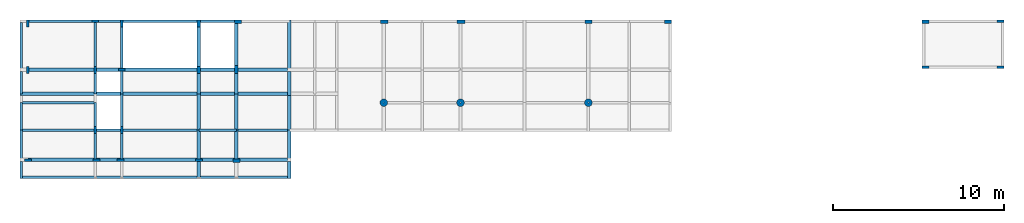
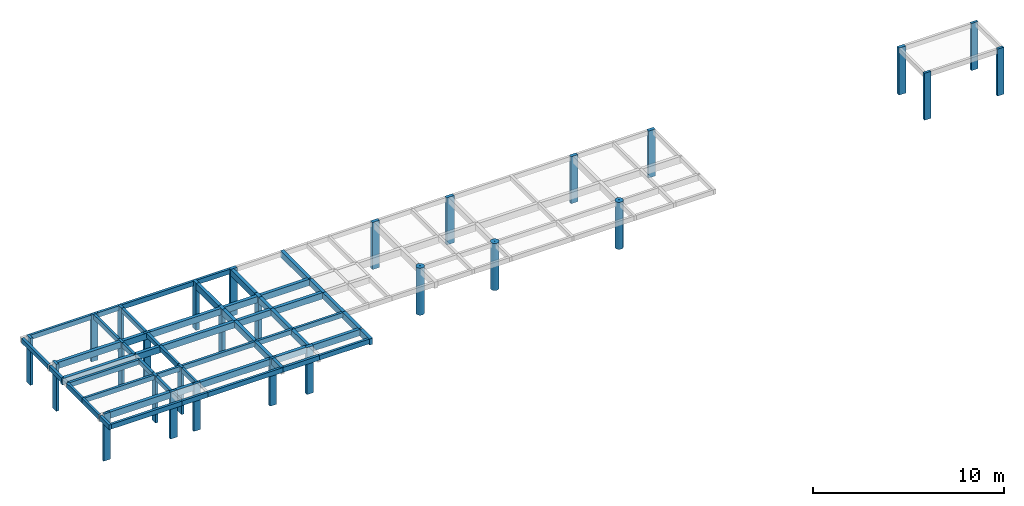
# One storey, part 1 of 4: 57 beams, 28 columns.
"""IFC2X3 building model written with IfcOpenShell, lengths in centimetres."""

from ifc_helpers import new_model, si_unit, derived_unit, frame, origin, origin_with_axes, origin_2d_with_axis, place, context, project, spatial, rectangle, hollow_circle, extrude, material, element, save


model = new_model("IFC2X3")

# Units and contexts
model_context = context("Model", 3, precision=1e-05, world=origin_with_axes(), identifier="Body")
ifc_project = project(units=[si_unit("LENGTHUNIT", "METRE", prefix="CENTI"), si_unit("VOLUMEUNIT", "CUBIC_METRE"), si_unit("AREAUNIT", "SQUARE_METRE"), si_unit("POWERUNIT", "WATT"), si_unit("LUMINOUSFLUXUNIT", "LUMEN"), si_unit("ELECTRICCURRENTUNIT", "AMPERE"), si_unit("PRESSUREUNIT", "PASCAL", prefix="KILO"), si_unit("MASSUNIT", "GRAM", prefix="KILO"), si_unit("PLANEANGLEUNIT", "RADIAN"), derived_unit("VOLUMETRICFLOWRATEUNIT", [(si_unit("LENGTHUNIT", "METRE"), 3), (si_unit("TIMEUNIT", "SECOND"), -1)])], contexts=[model_context])

# Site, building, storey
site_placement = place(None, origin_with_axes())
site = spatial("IfcSite", under=ifc_project, at=site_placement)
building_placement = place(site_placement, origin())
building = spatial("IfcBuilding", under=site, at=building_placement)
placement_1 = place(building_placement, origin_with_axes())
placement_2 = place(placement_1, frame((0.0, 0.0, 80.0), z_axis=(0.0, 0.0, 1.0), x_axis=(1.0, 0.0, 0.0)))
placement_3 = place(placement_2, frame((0.0, 0.0, 320.0), z_axis=(0.0, 0.0, 1.0), x_axis=(1.0, 0.0, 0.0)))
placement_4 = place(placement_3, frame((0.0, 0.0, 320.0), z_axis=(0.0, 0.0, 1.0), x_axis=(1.0, 0.0, 0.0)))
storey_placement = place(placement_4, frame((0.0, 0.0, 300.0), z_axis=(0.0, 0.0, 1.0), x_axis=(1.0, 0.0, 0.0)))
storey = spatial("IfcBuildingStorey", under=building, at=storey_placement, Name="05. Pavimento Técnico", CompositionType="ELEMENT", Elevation=1020.0)

# Columns
ifc_material = material(Name="Concreto")
for number, where, z_axis, x_axis, name in (
    (1, (1838.54, -284.11, 0.0), (0.0, 0.0, 1.0), (1.0, 0.0, 0.0), "P10"),
    (2, (2305.54, -284.11, 0.0), (0.0, 0.0, 1.0), (1.0, 0.0, 0.0), "P11"),
    (3, (3816.04, -284.11, 0.0), (0.0, 0.0, 1.0), (1.0, 0.0, 0.0), "P14"),
):
    element("IfcColumn", number, at=place(storey_placement, frame(where, z_axis=z_axis, x_axis=x_axis)), inside=storey, material=ifc_material, Name=name, context=model_context, shape_type="SolidModel", body=[
        extrude(rectangle(XDim=20.0, YDim=40.0, at=origin_2d_with_axis()), frame((0.0, 0.0, 0.0), z_axis=(0.0, 0.0, 1.0), x_axis=(0.0, -1.0, 0.0)), (0.0, 0.0, -1.0), 300.0),
    ])
column_1_placement = place(storey_placement, frame((4255.54, -281.61, 0.0), z_axis=(0.0, 0.0, 1.0), x_axis=(1.0, 0.0, 0.0)))
element("IfcColumn", 4, at=column_1_placement, inside=storey, material=ifc_material, Name="P15", context=model_context, shape_type="SolidModel", body=[
    extrude(rectangle(XDim=15.0, YDim=40.0, at=origin_2d_with_axis()), frame((0.0, 0.0, 0.0), z_axis=(0.0, 0.0, 1.0), x_axis=(0.0, -1.0, 0.0)), (0.0, 0.0, -1.0), 300.0),
])
column_2_placement = place(storey_placement, frame((-1447.96, -566.61, 0.0), z_axis=(0.0, 0.0, 1.0), x_axis=(1.0, 0.0, 0.0)))
element("IfcColumn", 5, at=column_2_placement, inside=storey, material=ifc_material, Name="P17", context=model_context, shape_type="SolidModel", body=[
    extrude(rectangle(XDim=15.0, YDim=40.0, at=origin_2d_with_axis()), origin_with_axes(), (0.0, 0.0, -1.0), 300.0),
])
column_3_placement = place(storey_placement, frame((-1052.96, -566.61, 0.0), z_axis=(0.0, 0.0, 1.0), x_axis=(1.0, 0.0, 0.0)))
element("IfcColumn", 6, at=column_3_placement, inside=storey, material=ifc_material, Name="P18", context=model_context, shape_type="SolidModel", body=[
    extrude(rectangle(XDim=15.0, YDim=40.0, at=origin_2d_with_axis()), frame((0.0, 0.0, 0.0), z_axis=(0.0, 0.0, 1.0), x_axis=(-1.0, 0.0, 0.0)), (0.0, 0.0, -1.0), 300.0),
])
column_4_placement = place(storey_placement, frame((-897.96, -566.61, 0.0), z_axis=(0.0, 0.0, 1.0), x_axis=(1.0, 0.0, 0.0)))
element("IfcColumn", 7, at=column_4_placement, inside=storey, material=ifc_material, Name="P19", context=model_context, shape_type="SolidModel", body=[
    extrude(rectangle(XDim=15.0, YDim=40.0, at=origin_2d_with_axis()), frame((0.0, 0.0, 0.0), z_axis=(0.0, 0.0, 1.0), x_axis=(0.0, -1.0, 0.0)), (0.0, 0.0, -1.0), 300.0),
])
column_5_placement = place(storey_placement, frame((-1447.96, -294.11, 0.0), z_axis=(0.0, 0.0, 1.0), x_axis=(1.0, 0.0, 0.0)))
element("IfcColumn", 8, at=column_5_placement, inside=storey, material=ifc_material, Name="P2", context=model_context, shape_type="SolidModel", body=[
    extrude(rectangle(XDim=15.0, YDim=40.0, at=origin_2d_with_axis()), origin_with_axes(), (0.0, 0.0, -1.0), 300.0),
])
column_6_placement = place(storey_placement, frame((-445.46, -566.61, 0.0), z_axis=(0.0, 0.0, 1.0), x_axis=(1.0, 0.0, 0.0)))
element("IfcColumn", 9, at=column_6_placement, inside=storey, material=ifc_material, Name="P20", context=model_context, shape_type="SolidModel", body=[
    extrude(rectangle(XDim=20.0, YDim=40.0, at=origin_2d_with_axis()), origin_with_axes(), (0.0, 0.0, -1.0), 300.0),
])
column_7_placement = place(storey_placement, frame((-225.46, -564.11, 0.0), z_axis=(0.0, 0.0, 1.0), x_axis=(1.0, 0.0, 0.0)))
element("IfcColumn", 10, at=column_7_placement, inside=storey, material=ifc_material, Name="P21", context=model_context, shape_type="SolidModel", body=[
    extrude(rectangle(XDim=20.0, YDim=45.0, at=origin_2d_with_axis()), origin_with_axes(), (0.0, 0.0, -1.0), 300.0),
])
for number, where, z_axis, x_axis, name in (
    (11, (3816.04, -551.61, 0.0), (0.0, 0.0, 1.0), (1.0, 0.0, 0.0), "P22"),
    (12, (4255.54, -551.61, 0.0), (0.0, 0.0, 1.0), (1.0, 0.0, 0.0), "P23"),
):
    element("IfcColumn", number, at=place(storey_placement, frame(where, z_axis=z_axis, x_axis=x_axis)), inside=storey, material=ifc_material, Name=name, context=model_context, shape_type="SolidModel", body=[
        extrude(rectangle(XDim=15.0, YDim=40.0, at=origin_2d_with_axis()), frame((0.0, 0.0, 0.0), z_axis=(0.0, 0.0, 1.0), x_axis=(0.0, -1.0, 0.0)), (0.0, 0.0, -1.0), 300.0),
    ])
for number, where, z_axis, x_axis, name in (
    (13, (638.67, -758.96, 0.0), (0.0, 0.0, 1.0), (1.0, 0.0, 0.0), "P28"),
    (14, (1088.67, -758.96, 0.0), (0.0, 0.0, 1.0), (1.0, 0.0, 0.0), "P29"),
):
    element("IfcColumn", number, at=place(storey_placement, frame(where, z_axis=z_axis, x_axis=x_axis)), inside=storey, material=ifc_material, Name=name, context=model_context, shape_type="SolidModel", body=[
        extrude(hollow_circle(Radius=22.5, WallThickness=20.0, at=origin_2d_with_axis()), origin_with_axes(), (0.0, 0.0, -1.0), 300.0),
    ])
column_8_placement = place(storey_placement, frame((-1052.96, -282.08, 0.0), z_axis=(0.0, 0.0, 1.0), x_axis=(1.0, 0.0, 0.0)))
element("IfcColumn", 15, at=column_8_placement, inside=storey, material=ifc_material, Name="P3", context=model_context, shape_type="SolidModel", body=[
    extrude(rectangle(XDim=15.0, YDim=40.0, at=origin_2d_with_axis()), frame((0.0, 0.0, 0.0), z_axis=(0.0, 0.0, 1.0), x_axis=(0.0, -1.0, 0.0)), (0.0, 0.0, -1.0), 300.0),
])
column_9_placement = place(storey_placement, frame((1838.67, -758.96, 0.0), z_axis=(0.0, 0.0, 1.0), x_axis=(1.0, 0.0, 0.0)))
element("IfcColumn", 16, at=column_9_placement, inside=storey, material=ifc_material, Name="P30", context=model_context, shape_type="SolidModel", body=[
    extrude(hollow_circle(Radius=22.5, WallThickness=20.0, at=origin_2d_with_axis()), origin_with_axes(), (0.0, 0.0, -1.0), 300.0),
])
column_10_placement = place(storey_placement, frame((-1052.96, -919.11, 0.0), z_axis=(0.0, 0.0, 1.0), x_axis=(1.0, 0.0, 0.0)))
element("IfcColumn", 17, at=column_10_placement, inside=storey, material=ifc_material, Name="P33", context=model_context, shape_type="SolidModel", body=[
    extrude(rectangle(XDim=15.0, YDim=40.0, at=origin_2d_with_axis()), frame((0.0, 0.0, 0.0), z_axis=(0.0, 0.0, 1.0), x_axis=(-1.0, 0.0, 0.0)), (0.0, 0.0, -1.0), 300.0),
])
column_11_placement = place(storey_placement, frame((-897.96, -919.11, 0.0), z_axis=(0.0, 0.0, 1.0), x_axis=(1.0, 0.0, 0.0)))
element("IfcColumn", 18, at=column_11_placement, inside=storey, material=ifc_material, Name="P34", context=model_context, shape_type="SolidModel", body=[
    extrude(rectangle(XDim=15.0, YDim=40.0, at=origin_2d_with_axis()), origin_with_axes(), (0.0, 0.0, -1.0), 300.0),
])
for number, where, z_axis, x_axis, name in (
    (19, (-1447.96, -1096.61, 0.0), (0.0, 0.0, 1.0), (1.0, 0.0, 0.0), "P36"),
    (20, (-1044.96, -1096.6, 0.0), (0.0, 0.0, 1.0), (1.0, 0.0, 0.0), "P37"),
    (21, (-904.46, -1096.6, 0.0), (0.0, 0.0, 1.0), (1.0, 0.0, 0.0), "P38"),
    (22, (-445.46, -1096.6, 0.0), (0.0, 0.0, 1.0), (1.0, 0.0, 0.0), "P39"),
):
    element("IfcColumn", number, at=place(storey_placement, frame(where, z_axis=z_axis, x_axis=x_axis)), inside=storey, material=ifc_material, Name=name, context=model_context, shape_type="SolidModel", body=[
        extrude(rectangle(XDim=15.0, YDim=40.0, at=origin_2d_with_axis()), frame((0.0, 0.0, 0.0), z_axis=(0.0, 0.0, 1.0), x_axis=(0.0, -1.0, 0.0)), (0.0, 0.0, -1.0), 300.0),
    ])
column_12_placement = place(storey_placement, frame((-897.96, -294.11, 0.0), z_axis=(0.0, 0.0, 1.0), x_axis=(1.0, 0.0, 0.0)))
element("IfcColumn", 23, at=column_12_placement, inside=storey, material=ifc_material, Name="P4", context=model_context, shape_type="SolidModel", body=[
    extrude(rectangle(XDim=15.0, YDim=40.0, at=origin_2d_with_axis()), origin_with_axes(), (0.0, 0.0, -1.0), 300.0),
])
column_13_placement = place(storey_placement, frame((-225.46, -1099.1, 0.0), z_axis=(0.0, 0.0, 1.0), x_axis=(1.0, 0.0, 0.0)))
element("IfcColumn", 24, at=column_13_placement, inside=storey, material=ifc_material, Name="P40", context=model_context, shape_type="SolidModel", body=[
    extrude(rectangle(XDim=20.0, YDim=40.0, at=origin_2d_with_axis()), frame((0.0, 0.0, 0.0), z_axis=(0.0, 0.0, 1.0), x_axis=(0.0, -1.0, 0.0)), (0.0, 0.0, -1.0), 300.0),
])
column_14_placement = place(storey_placement, frame((-445.46, -294.11, 0.0), z_axis=(0.0, 0.0, 1.0), x_axis=(1.0, 0.0, 0.0)))
element("IfcColumn", 25, at=column_14_placement, inside=storey, material=ifc_material, Name="P5", context=model_context, shape_type="SolidModel", body=[
    extrude(rectangle(XDim=20.0, YDim=40.0, at=origin_2d_with_axis()), origin_with_axes(), (0.0, 0.0, -1.0), 300.0),
])
column_15_placement = place(storey_placement, frame((-215.46, -284.11, 0.0), z_axis=(0.0, 0.0, 1.0), x_axis=(1.0, 0.0, 0.0)))
element("IfcColumn", 26, at=column_15_placement, inside=storey, material=ifc_material, Name="P6", context=model_context, shape_type="SolidModel", body=[
    extrude(rectangle(XDim=20.0, YDim=40.0, at=origin_2d_with_axis()), frame((0.0, 0.0, 0.0), z_axis=(0.0, 0.0, 1.0), x_axis=(0.0, -1.0, 0.0)), (0.0, 0.0, -1.0), 300.0),
])
for number, where, z_axis, x_axis, name in (
    (27, (641.04, -284.11, 0.0), (0.0, 0.0, 1.0), (1.0, 0.0, 0.0), "P8"),
    (28, (1091.04, -284.11, 0.0), (0.0, 0.0, 1.0), (1.0, 0.0, 0.0), "P9"),
):
    element("IfcColumn", number, at=place(storey_placement, frame(where, z_axis=z_axis, x_axis=x_axis)), inside=storey, material=ifc_material, Name=name, context=model_context, shape_type="SolidModel", body=[
        extrude(rectangle(XDim=20.0, YDim=45.0, at=origin_2d_with_axis()), frame((0.0, 0.0, 0.0), z_axis=(0.0, 0.0, 1.0), x_axis=(0.0, -1.0, 0.0)), (0.0, 0.0, -1.0), 300.0),
    ])

# Beams
beam_1_placement = place(storey_placement, frame((-1246.71, -281.61, 0.0), z_axis=(0.0, 0.0, 1.0), x_axis=(1.0, 0.0, 0.0)))
element("IfcBeam", 29, at=beam_1_placement, inside=storey, material=ifc_material, Name="V1", context=model_context, shape_type="SolidModel", body=[
    extrude(rectangle(XDim=15.0, YDim=30.0, at=origin_2d_with_axis()), frame((-193.75, 0.0, -15.0), z_axis=(1.0, 0.0, 0.0), x_axis=(0.0, -1.0, 0.0)), (0.0, 0.0, 1.0), 387.5),
])
beam_2_placement = place(storey_placement, frame((-979.21, -281.61, 0.0), z_axis=(0.0, 0.0, 1.0), x_axis=(1.0, 0.0, 0.0)))
element("IfcBeam", 30, at=beam_2_placement, inside=storey, material=ifc_material, Name="V1", context=model_context, shape_type="SolidModel", body=[
    extrude(rectangle(XDim=15.0, YDim=30.0, at=origin_2d_with_axis()), frame((-73.75, 0.0, -15.0), z_axis=(1.0, 0.0, 0.0), x_axis=(0.0, -1.0, 0.0)), (0.0, 0.0, 1.0), 147.5),
])
beam_3_placement = place(storey_placement, frame((-672.96, -281.61, 0.0), z_axis=(0.0, 0.0, 1.0), x_axis=(1.0, 0.0, 0.0)))
element("IfcBeam", 31, at=beam_3_placement, inside=storey, material=ifc_material, Name="V1", context=model_context, shape_type="SolidModel", body=[
    extrude(rectangle(XDim=15.0, YDim=30.0, at=origin_2d_with_axis()), frame((-217.5, 0.0, -15.0), z_axis=(1.0, 0.0, 0.0), x_axis=(0.0, -1.0, 0.0)), (0.0, 0.0, 1.0), 435.0),
])
beam_4_placement = place(storey_placement, frame((-335.46, -281.61, 0.0), z_axis=(0.0, 0.0, 1.0), x_axis=(1.0, 0.0, 0.0)))
element("IfcBeam", 32, at=beam_4_placement, inside=storey, material=ifc_material, Name="V1", context=model_context, shape_type="SolidModel", body=[
    extrude(rectangle(XDim=15.0, YDim=30.0, at=origin_2d_with_axis()), frame((-100.0, 0.0, -15.0), z_axis=(1.0, 0.0, 0.0), x_axis=(0.0, -1.0, 0.0)), (0.0, 0.0, 1.0), 200.0),
])
beam_5_placement = place(storey_placement, frame((-1273.71, -919.61, 0.0), z_axis=(0.0, 0.0, 1.0), x_axis=(1.0, 0.0, 0.0)))
element("IfcBeam", 33, at=beam_5_placement, inside=storey, material=ifc_material, Name="V11", context=model_context, shape_type="SolidModel", body=[
    extrude(rectangle(XDim=15.0, YDim=30.0, at=origin_2d_with_axis()), frame((-213.25, 0.0, -15.0), z_axis=(1.0, 0.0, 0.0), x_axis=(0.0, -1.0, 0.0)), (0.0, 0.0, 1.0), 426.5),
])
beam_6_placement = place(storey_placement, frame((-69.96, -919.61, 0.0), z_axis=(0.0, 0.0, 1.0), x_axis=(1.0, 0.0, 0.0)))
element("IfcBeam", 34, at=beam_6_placement, inside=storey, material=ifc_material, Name="V11", context=model_context, shape_type="SolidModel", body=[
    extrude(rectangle(XDim=15.0, YDim=30.0, at=origin_2d_with_axis()), frame((-155.5, 0.0, -15.0), z_axis=(1.0, 0.0, 0.0), x_axis=(0.0, -1.0, 0.0)), (0.0, 0.0, 1.0), 311.0),
])
beam_7_placement = place(storey_placement, frame((-667.96, -919.61, 0.0), z_axis=(0.0, 0.0, 1.0), x_axis=(1.0, 0.0, 0.0)))
element("IfcBeam", 35, at=beam_7_placement, inside=storey, material=ifc_material, Name="V11", context=model_context, shape_type="SolidModel", body=[
    extrude(rectangle(XDim=15.0, YDim=30.0, at=origin_2d_with_axis()), frame((-222.5, 0.0, -15.0), z_axis=(1.0, 0.0, 0.0), x_axis=(0.0, -1.0, 0.0)), (0.0, 0.0, 1.0), 445.0),
])
beam_8_placement = place(storey_placement, frame((-335.46, -919.61, 0.0), z_axis=(0.0, 0.0, 1.0), x_axis=(1.0, 0.0, 0.0)))
element("IfcBeam", 36, at=beam_8_placement, inside=storey, material=ifc_material, Name="V11", context=model_context, shape_type="SolidModel", body=[
    extrude(rectangle(XDim=15.0, YDim=30.0, at=origin_2d_with_axis()), frame((-110.0, 0.0, -15.0), z_axis=(1.0, 0.0, 0.0), x_axis=(0.0, -1.0, 0.0)), (0.0, 0.0, 1.0), 220.0),
])
beam_9_placement = place(storey_placement, frame((-975.46, -919.61, 0.0), z_axis=(0.0, 0.0, 1.0), x_axis=(1.0, 0.0, 0.0)))
element("IfcBeam", 37, at=beam_9_placement, inside=storey, material=ifc_material, Name="V11", context=model_context, shape_type="SolidModel", body=[
    extrude(rectangle(XDim=15.0, YDim=30.0, at=origin_2d_with_axis()), frame((-70.0, 0.0, -15.0), z_axis=(1.0, 0.0, 0.0), x_axis=(0.0, -1.0, 0.0)), (0.0, 0.0, 1.0), 140.0),
])
beam_10_placement = place(storey_placement, frame((-335.46, -1094.11, 0.0), z_axis=(0.0, 0.0, 1.0), x_axis=(1.0, 0.0, 0.0)))
element("IfcBeam", 38, at=beam_10_placement, inside=storey, material=ifc_material, Name="V12", context=model_context, shape_type="SolidModel", body=[
    extrude(rectangle(XDim=20.0, YDim=40.0, at=origin_2d_with_axis()), frame((-110.0, 0.0, -20.0), z_axis=(1.0, 0.0, 0.0), x_axis=(0.0, -1.0, 0.0)), (0.0, 0.0, 1.0), 220.0),
])
beam_11_placement = place(storey_placement, frame((-1246.46, -1094.11, 0.0), z_axis=(0.0, 0.0, 1.0), x_axis=(1.0, 0.0, 0.0)))
element("IfcBeam", 39, at=beam_11_placement, inside=storey, material=ifc_material, Name="V12", context=model_context, shape_type="SolidModel", body=[
    extrude(rectangle(XDim=20.0, YDim=40.0, at=origin_2d_with_axis()), frame((-201.5, 0.0, -20.0), z_axis=(1.0, 0.0, 0.0), x_axis=(0.0, -1.0, 0.0)), (0.0, 0.0, 1.0), 403.0),
])
beam_12_placement = place(storey_placement, frame((-674.96, -1094.11, 0.0), z_axis=(0.0, 0.0, 1.0), x_axis=(1.0, 0.0, 0.0)))
element("IfcBeam", 40, at=beam_12_placement, inside=storey, material=ifc_material, Name="V12", context=model_context, shape_type="SolidModel", body=[
    extrude(rectangle(XDim=20.0, YDim=40.0, at=origin_2d_with_axis()), frame((-229.5, 0.0, -20.0), z_axis=(1.0, 0.0, 0.0), x_axis=(0.0, -1.0, 0.0)), (0.0, 0.0, 1.0), 459.0),
])
beam_13_placement = place(storey_placement, frame((-974.71, -1094.11, 0.0), z_axis=(0.0, 0.0, 1.0), x_axis=(1.0, 0.0, 0.0)))
element("IfcBeam", 41, at=beam_13_placement, inside=storey, material=ifc_material, Name="V12", context=model_context, shape_type="SolidModel", body=[
    extrude(rectangle(XDim=20.0, YDim=40.0, at=origin_2d_with_axis()), frame((-70.25, 0.0, -20.0), z_axis=(1.0, 0.0, 0.0), x_axis=(0.0, -1.0, 0.0)), (0.0, 0.0, 1.0), 140.5),
])
beam_14_placement = place(storey_placement, frame((-69.96, -1094.11, 0.0), z_axis=(0.0, 0.0, 1.0), x_axis=(1.0, 0.0, 0.0)))
element("IfcBeam", 42, at=beam_14_placement, inside=storey, material=ifc_material, Name="V12", context=model_context, shape_type="SolidModel", body=[
    extrude(rectangle(XDim=20.0, YDim=40.0, at=origin_2d_with_axis()), frame((-155.5, 0.0, -20.0), z_axis=(1.0, 0.0, 0.0), x_axis=(0.0, -1.0, 0.0)), (0.0, 0.0, 1.0), 311.0),
])
beam_15_placement = place(storey_placement, frame((-1266.21, -1196.61, 0.0), z_axis=(0.0, 0.0, 1.0), x_axis=(1.0, 0.0, 0.0)))
element("IfcBeam", 43, at=beam_15_placement, inside=storey, material=ifc_material, Name="V13", context=model_context, shape_type="SolidModel", body=[
    extrude(rectangle(XDim=15.0, YDim=30.0, at=origin_2d_with_axis()), frame((-213.25, 0.0, -15.0), z_axis=(1.0, 0.0, 0.0), x_axis=(0.0, -1.0, 0.0)), (0.0, 0.0, 1.0), 426.5),
])
beam_16_placement = place(storey_placement, frame((-975.46, -1196.61, 0.0), z_axis=(0.0, 0.0, 1.0), x_axis=(1.0, 0.0, 0.0)))
element("IfcBeam", 44, at=beam_16_placement, inside=storey, material=ifc_material, Name="V13", context=model_context, shape_type="SolidModel", body=[
    extrude(rectangle(XDim=15.0, YDim=30.0, at=origin_2d_with_axis()), frame((-77.5, 0.0, -15.0), z_axis=(1.0, 0.0, 0.0), x_axis=(0.0, -1.0, 0.0)), (0.0, 0.0, 1.0), 155.0),
])
beam_17_placement = place(storey_placement, frame((-74.96, -1196.61, 0.0), z_axis=(0.0, 0.0, 1.0), x_axis=(1.0, 0.0, 0.0)))
element("IfcBeam", 45, at=beam_17_placement, inside=storey, material=ifc_material, Name="V13", context=model_context, shape_type="SolidModel", body=[
    extrude(rectangle(XDim=15.0, YDim=30.0, at=origin_2d_with_axis()), frame((-150.5, 0.0, -15.0), z_axis=(1.0, 0.0, 0.0), x_axis=(0.0, -1.0, 0.0)), (0.0, 0.0, 1.0), 301.0),
])
beam_18_placement = place(storey_placement, frame((-335.46, -1196.61, 0.0), z_axis=(0.0, 0.0, 1.0), x_axis=(1.0, 0.0, 0.0)))
element("IfcBeam", 46, at=beam_18_placement, inside=storey, material=ifc_material, Name="V13", context=model_context, shape_type="SolidModel", body=[
    extrude(rectangle(XDim=15.0, YDim=30.0, at=origin_2d_with_axis()), frame((-110.0, 0.0, -15.0), z_axis=(1.0, 0.0, 0.0), x_axis=(0.0, -1.0, 0.0)), (0.0, 0.0, 1.0), 220.0),
])
beam_19_placement = place(storey_placement, frame((-671.71, -1196.61, 0.0), z_axis=(0.0, 0.0, 1.0), x_axis=(1.0, 0.0, 0.0)))
element("IfcBeam", 47, at=beam_19_placement, inside=storey, material=ifc_material, Name="V13", context=model_context, shape_type="SolidModel", body=[
    extrude(rectangle(XDim=15.0, YDim=30.0, at=origin_2d_with_axis()), frame((-226.25, 0.0, -15.0), z_axis=(1.0, 0.0, 0.0), x_axis=(0.0, -1.0, 0.0)), (0.0, 0.0, 1.0), 452.5),
])
beam_20_placement = place(storey_placement, frame((-1486.96, -839.285, 0.0), z_axis=(0.0, 0.0, 1.0), x_axis=(1.0, 0.0, 0.0)))
element("IfcBeam", 48, at=beam_20_placement, inside=storey, material=ifc_material, Name="V14", context=model_context, shape_type="SolidModel", body=[
    extrude(rectangle(XDim=15.0, YDim=30.0, at=origin_2d_with_axis()), frame((0.0, -80.325, -15.0), z_axis=(0.0, 1.0, 0.0), x_axis=(-1.0, 0.0, 0.0)), (0.0, 0.0, 1.0), 160.65),
])
beam_21_placement = place(storey_placement, frame((-1486.96, -641.61, 0.0), z_axis=(0.0, 0.0, 1.0), x_axis=(1.0, 0.0, 0.0)))
element("IfcBeam", 49, at=beam_21_placement, inside=storey, material=ifc_material, Name="V14", context=model_context, shape_type="SolidModel", body=[
    extrude(rectangle(XDim=15.0, YDim=30.0, at=origin_2d_with_axis()), frame((0.0, -65.0, -15.0), z_axis=(0.0, 1.0, 0.0), x_axis=(-1.0, 0.0, 0.0)), (0.0, 0.0, 1.0), 130.0),
])
beam_22_placement = place(storey_placement, frame((-1486.96, -1006.86, 0.0), z_axis=(0.0, 0.0, 1.0), x_axis=(1.0, 0.0, 0.0)))
element("IfcBeam", 50, at=beam_22_placement, inside=storey, material=ifc_material, Name="V14", context=model_context, shape_type="SolidModel", body=[
    extrude(rectangle(XDim=15.0, YDim=30.0, at=origin_2d_with_axis()), frame((0.0, -87.25, -15.0), z_axis=(0.0, 1.0, 0.0), x_axis=(-1.0, 0.0, 0.0)), (0.0, 0.0, 1.0), 174.5),
])
beam_23_placement = place(storey_placement, frame((-1486.96, -1154.11, 0.0), z_axis=(0.0, 0.0, 1.0), x_axis=(1.0, 0.0, 0.0)))
element("IfcBeam", 51, at=beam_23_placement, inside=storey, material=ifc_material, Name="V14", context=model_context, shape_type="SolidModel", body=[
    extrude(rectangle(XDim=15.0, YDim=30.0, at=origin_2d_with_axis()), frame((0.0, -50.0, -15.0), z_axis=(0.0, 1.0, 0.0), x_axis=(-1.0, 0.0, 0.0)), (0.0, 0.0, 1.0), 100.0),
])
beam_24_placement = place(storey_placement, frame((-1486.96, -427.86, 0.0), z_axis=(0.0, 0.0, 1.0), x_axis=(1.0, 0.0, 0.0)))
element("IfcBeam", 52, at=beam_24_placement, inside=storey, material=ifc_material, Name="V14", context=model_context, shape_type="SolidModel", body=[
    extrude(rectangle(XDim=15.0, YDim=30.0, at=origin_2d_with_axis()), frame((0.0, -138.75, -15.0), z_axis=(0.0, 1.0, 0.0), x_axis=(-1.0, 0.0, 0.0)), (0.0, 0.0, 1.0), 277.5),
])
beam_25_placement = place(storey_placement, frame((-1052.96, -646.61, 0.0), z_axis=(0.0, 0.0, 1.0), x_axis=(1.0, 0.0, 0.0)))
element("IfcBeam", 53, at=beam_25_placement, inside=storey, material=ifc_material, Name="V15", context=model_context, shape_type="SolidModel", body=[
    extrude(rectangle(XDim=15.0, YDim=30.0, at=origin_2d_with_axis()), frame((0.0, -60.0, -15.0), z_axis=(0.0, 1.0, 0.0), x_axis=(-1.0, 0.0, 0.0)), (0.0, 0.0, 1.0), 120.0),
])
beam_26_placement = place(storey_placement, frame((-1052.96, -418.095, 0.0), z_axis=(0.0, 0.0, 1.0), x_axis=(1.0, 0.0, 0.0)))
element("IfcBeam", 54, at=beam_26_placement, inside=storey, material=ifc_material, Name="V15", context=model_context, shape_type="SolidModel", body=[
    extrude(rectangle(XDim=15.0, YDim=30.0, at=origin_2d_with_axis()), frame((0.0, -128.515, -15.0), z_axis=(0.0, 1.0, 0.0), x_axis=(-1.0, 0.0, 0.0)), (0.0, 0.0, 1.0), 257.03),
])
beam_27_placement = place(storey_placement, frame((-1052.96, -829.035, 0.0), z_axis=(0.0, 0.0, 1.0), x_axis=(1.0, 0.0, 0.0)))
element("IfcBeam", 55, at=beam_27_placement, inside=storey, material=ifc_material, Name="V15", context=model_context, shape_type="SolidModel", body=[
    extrude(rectangle(XDim=15.0, YDim=30.0, at=origin_2d_with_axis()), frame((0.0, -70.075, -15.0), z_axis=(0.0, 1.0, 0.0), x_axis=(-1.0, 0.0, 0.0)), (0.0, 0.0, 1.0), 140.15),
])
for number, where, z_axis, x_axis, name in (
    (56, (-1052.96, -1014.105, 0.0), (0.0, 0.0, 1.0), (1.0, 0.0, 0.0), "V15"),
    (57, (-897.96, -1014.105, 0.0), (0.0, 0.0, 1.0), (1.0, 0.0, 0.0), "V16"),
):
    element("IfcBeam", number, at=place(storey_placement, frame(where, z_axis=z_axis, x_axis=x_axis)), inside=storey, material=ifc_material, Name=name, context=model_context, shape_type="SolidModel", body=[
        extrude(rectangle(XDim=15.0, YDim=30.0, at=origin_2d_with_axis()), frame((0.0, -74.995, -15.0), z_axis=(0.0, 1.0, 0.0), x_axis=(-1.0, 0.0, 0.0)), (0.0, 0.0, 1.0), 149.99),
    ])
beam_28_placement = place(storey_placement, frame((-897.96, -802.86, 0.0), z_axis=(0.0, 0.0, 1.0), x_axis=(1.0, 0.0, 0.0)))
element("IfcBeam", 58, at=beam_28_placement, inside=storey, material=ifc_material, Name="V16", context=model_context, shape_type="SolidModel", body=[
    extrude(rectangle(XDim=15.0, YDim=30.0, at=origin_2d_with_axis()), frame((0.0, -96.25, -15.0), z_axis=(0.0, 1.0, 0.0), x_axis=(-1.0, 0.0, 0.0)), (0.0, 0.0, 1.0), 192.5),
])
beam_29_placement = place(storey_placement, frame((-897.96, -436.61, 0.0), z_axis=(0.0, 0.0, 1.0), x_axis=(1.0, 0.0, 0.0)))
element("IfcBeam", 59, at=beam_29_placement, inside=storey, material=ifc_material, Name="V16", context=model_context, shape_type="SolidModel", body=[
    extrude(rectangle(XDim=15.0, YDim=30.0, at=origin_2d_with_axis()), frame((0.0, -122.5, -15.0), z_axis=(0.0, 1.0, 0.0), x_axis=(-1.0, 0.0, 0.0)), (0.0, 0.0, 1.0), 245.0),
])
beam_30_placement = place(storey_placement, frame((-897.96, -640.36, 0.0), z_axis=(0.0, 0.0, 1.0), x_axis=(1.0, 0.0, 0.0)))
element("IfcBeam", 60, at=beam_30_placement, inside=storey, material=ifc_material, Name="V16", context=model_context, shape_type="SolidModel", body=[
    extrude(rectangle(XDim=15.0, YDim=30.0, at=origin_2d_with_axis()), frame((0.0, -66.25, -15.0), z_axis=(0.0, 1.0, 0.0), x_axis=(-1.0, 0.0, 0.0)), (0.0, 0.0, 1.0), 132.5),
])
beam_31_placement = place(storey_placement, frame((-445.46, -813.11, 0.0), z_axis=(0.0, 0.0, 1.0), x_axis=(1.0, 0.0, 0.0)))
element("IfcBeam", 61, at=beam_31_placement, inside=storey, material=ifc_material, Name="V17", context=model_context, shape_type="SolidModel", body=[
    extrude(rectangle(XDim=20.0, YDim=40.0, at=origin_2d_with_axis()), frame((0.0, -106.5, -20.0), z_axis=(0.0, 1.0, 0.0), x_axis=(1.0, 0.0, 0.0)), (0.0, 0.0, 1.0), 213.0),
])
beam_32_placement = place(storey_placement, frame((-445.46, -1150.355, 0.0), z_axis=(0.0, 0.0, 1.0), x_axis=(1.0, 0.0, 0.0)))
element("IfcBeam", 62, at=beam_32_placement, inside=storey, material=ifc_material, Name="V17", context=model_context, shape_type="SolidModel", body=[
    extrude(rectangle(XDim=20.0, YDim=40.0, at=origin_2d_with_axis()), frame((0.0, -46.255, -20.0), z_axis=(0.0, 1.0, 0.0), x_axis=(1.0, 0.0, 0.0)), (0.0, 0.0, 1.0), 92.51),
])
beam_33_placement = place(storey_placement, frame((-445.46, -646.61, 0.0), z_axis=(0.0, 0.0, 1.0), x_axis=(1.0, 0.0, 0.0)))
element("IfcBeam", 63, at=beam_33_placement, inside=storey, material=ifc_material, Name="V17", context=model_context, shape_type="SolidModel", body=[
    extrude(rectangle(XDim=20.0, YDim=40.0, at=origin_2d_with_axis()), frame((0.0, -60.0, -20.0), z_axis=(0.0, 1.0, 0.0), x_axis=(-1.0, 0.0, 0.0)), (0.0, 0.0, 1.0), 120.0),
])
beam_34_placement = place(storey_placement, frame((-445.46, -1004.355, 0.0), z_axis=(0.0, 0.0, 1.0), x_axis=(1.0, 0.0, 0.0)))
element("IfcBeam", 64, at=beam_34_placement, inside=storey, material=ifc_material, Name="V17", context=model_context, shape_type="SolidModel", body=[
    extrude(rectangle(XDim=20.0, YDim=40.0, at=origin_2d_with_axis()), frame((0.0, -84.745, -20.0), z_axis=(0.0, 1.0, 0.0), x_axis=(1.0, 0.0, 0.0)), (0.0, 0.0, 1.0), 169.49),
])
beam_35_placement = place(storey_placement, frame((-445.46, -430.36, 0.0), z_axis=(0.0, 0.0, 1.0), x_axis=(1.0, 0.0, 0.0)))
element("IfcBeam", 65, at=beam_35_placement, inside=storey, material=ifc_material, Name="V17", context=model_context, shape_type="SolidModel", body=[
    extrude(rectangle(XDim=20.0, YDim=40.0, at=origin_2d_with_axis()), frame((0.0, -116.25, -20.0), z_axis=(0.0, 1.0, 0.0), x_axis=(-1.0, 0.0, 0.0)), (0.0, 0.0, 1.0), 232.5),
])
beam_36_placement = place(storey_placement, frame((-225.46, -646.61, 0.0), z_axis=(0.0, 0.0, 1.0), x_axis=(1.0, 0.0, 0.0)))
element("IfcBeam", 66, at=beam_36_placement, inside=storey, material=ifc_material, Name="V18", context=model_context, shape_type="SolidModel", body=[
    extrude(rectangle(XDim=20.0, YDim=40.0, at=origin_2d_with_axis()), frame((0.0, -60.0, -20.0), z_axis=(0.0, 1.0, 0.0), x_axis=(1.0, 0.0, 0.0)), (0.0, 0.0, 1.0), 120.0),
])
beam_37_placement = place(storey_placement, frame((-225.46, -813.11, 0.0), z_axis=(0.0, 0.0, 1.0), x_axis=(1.0, 0.0, 0.0)))
element("IfcBeam", 67, at=beam_37_placement, inside=storey, material=ifc_material, Name="V18", context=model_context, shape_type="SolidModel", body=[
    extrude(rectangle(XDim=20.0, YDim=40.0, at=origin_2d_with_axis()), frame((0.0, -106.5, -20.0), z_axis=(0.0, 1.0, 0.0), x_axis=(1.0, 0.0, 0.0)), (0.0, 0.0, 1.0), 213.0),
])
beam_38_placement = place(storey_placement, frame((-225.46, -1004.355, 0.0), z_axis=(0.0, 0.0, 1.0), x_axis=(1.0, 0.0, 0.0)))
element("IfcBeam", 68, at=beam_38_placement, inside=storey, material=ifc_material, Name="V18", context=model_context, shape_type="SolidModel", body=[
    extrude(rectangle(XDim=20.0, YDim=40.0, at=origin_2d_with_axis()), frame((0.0, -84.745, -20.0), z_axis=(0.0, 1.0, 0.0), x_axis=(1.0, 0.0, 0.0)), (0.0, 0.0, 1.0), 169.49),
])
beam_39_placement = place(storey_placement, frame((-225.46, -417.86, 0.0), z_axis=(0.0, 0.0, 1.0), x_axis=(1.0, 0.0, 0.0)))
element("IfcBeam", 69, at=beam_39_placement, inside=storey, material=ifc_material, Name="V18", context=model_context, shape_type="SolidModel", body=[
    extrude(rectangle(XDim=20.0, YDim=40.0, at=origin_2d_with_axis()), frame((0.0, -123.75, -20.0), z_axis=(0.0, 1.0, 0.0), x_axis=(1.0, 0.0, 0.0)), (0.0, 0.0, 1.0), 247.5),
])
beam_40_placement = place(storey_placement, frame((85.54, -1154.11, 0.0), z_axis=(0.0, 0.0, 1.0), x_axis=(1.0, 0.0, 0.0)))
element("IfcBeam", 70, at=beam_40_placement, inside=storey, material=ifc_material, Name="V19", context=model_context, shape_type="SolidModel", body=[
    extrude(rectangle(XDim=20.0, YDim=40.0, at=origin_2d_with_axis()), frame((0.0, -50.0, -20.0), z_axis=(0.0, 1.0, 0.0), x_axis=(1.0, 0.0, 0.0)), (0.0, 0.0, 1.0), 100.0),
])
beam_41_placement = place(storey_placement, frame((85.54, -646.61, 0.0), z_axis=(0.0, 0.0, 1.0), x_axis=(1.0, 0.0, 0.0)))
element("IfcBeam", 71, at=beam_41_placement, inside=storey, material=ifc_material, Name="V19", context=model_context, shape_type="SolidModel", body=[
    extrude(rectangle(XDim=20.0, YDim=40.0, at=origin_2d_with_axis()), frame((0.0, -70.0, -20.0), z_axis=(0.0, 1.0, 0.0), x_axis=(1.0, 0.0, 0.0)), (0.0, 0.0, 1.0), 140.0),
])
beam_42_placement = place(storey_placement, frame((85.54, -1006.86, 0.0), z_axis=(0.0, 0.0, 1.0), x_axis=(1.0, 0.0, 0.0)))
element("IfcBeam", 72, at=beam_42_placement, inside=storey, material=ifc_material, Name="V19", context=model_context, shape_type="SolidModel", body=[
    extrude(rectangle(XDim=20.0, YDim=40.0, at=origin_2d_with_axis()), frame((0.0, -87.25, -20.0), z_axis=(0.0, 1.0, 0.0), x_axis=(1.0, 0.0, 0.0)), (0.0, 0.0, 1.0), 174.5),
])
beam_43_placement = place(storey_placement, frame((85.54, -813.11, 0.0), z_axis=(0.0, 0.0, 1.0), x_axis=(1.0, 0.0, 0.0)))
element("IfcBeam", 73, at=beam_43_placement, inside=storey, material=ifc_material, Name="V19", context=model_context, shape_type="SolidModel", body=[
    extrude(rectangle(XDim=20.0, YDim=40.0, at=origin_2d_with_axis()), frame((0.0, -106.5, -20.0), z_axis=(0.0, 1.0, 0.0), x_axis=(1.0, 0.0, 0.0)), (0.0, 0.0, 1.0), 213.0),
])
beam_44_placement = place(storey_placement, frame((85.54, -420.36, 0.0), z_axis=(0.0, 0.0, 1.0), x_axis=(1.0, 0.0, 0.0)))
element("IfcBeam", 74, at=beam_44_placement, inside=storey, material=ifc_material, Name="V19", context=model_context, shape_type="SolidModel", body=[
    extrude(rectangle(XDim=20.0, YDim=40.0, at=origin_2d_with_axis()), frame((0.0, -146.25, -20.0), z_axis=(0.0, 1.0, 0.0), x_axis=(1.0, 0.0, 0.0)), (0.0, 0.0, 1.0), 292.5),
])
beam_45_placement = place(storey_placement, frame((-1250.46, -566.61, 0.0), z_axis=(0.0, 0.0, 1.0), x_axis=(1.0, 0.0, 0.0)))
element("IfcBeam", 75, at=beam_45_placement, inside=storey, material=ifc_material, Name="V3", context=model_context, shape_type="SolidModel", body=[
    extrude(rectangle(XDim=20.0, YDim=40.0, at=origin_2d_with_axis()), frame((-190.0, 0.0, -20.0), z_axis=(1.0, 0.0, 0.0), x_axis=(0.0, -1.0, 0.0)), (0.0, 0.0, 1.0), 380.0),
])
beam_46_placement = place(storey_placement, frame((-676.71, -566.61, 0.0), z_axis=(0.0, 0.0, 1.0), x_axis=(1.0, 0.0, 0.0)))
element("IfcBeam", 76, at=beam_46_placement, inside=storey, material=ifc_material, Name="V3", context=model_context, shape_type="SolidModel", body=[
    extrude(rectangle(XDim=20.0, YDim=40.0, at=origin_2d_with_axis()), frame((-221.25, 0.0, -20.0), z_axis=(1.0, 0.0, 0.0), x_axis=(0.0, -1.0, 0.0)), (0.0, 0.0, 1.0), 442.5),
])
beam_47_placement = place(storey_placement, frame((-335.46, -566.61, 0.0), z_axis=(0.0, 0.0, 1.0), x_axis=(1.0, 0.0, 0.0)))
element("IfcBeam", 77, at=beam_47_placement, inside=storey, material=ifc_material, Name="V3", context=model_context, shape_type="SolidModel", body=[
    extrude(rectangle(XDim=20.0, YDim=40.0, at=origin_2d_with_axis()), frame((-100.0, 0.0, -20.0), z_axis=(1.0, 0.0, 0.0), x_axis=(0.0, -1.0, 0.0)), (0.0, 0.0, 1.0), 200.0),
])
beam_48_placement = place(storey_placement, frame((-64.96, -566.61, 0.0), z_axis=(0.0, 0.0, 1.0), x_axis=(1.0, 0.0, 0.0)))
element("IfcBeam", 78, at=beam_48_placement, inside=storey, material=ifc_material, Name="V3", context=model_context, shape_type="SolidModel", body=[
    extrude(rectangle(XDim=20.0, YDim=40.0, at=origin_2d_with_axis()), frame((-150.5, 0.0, -20.0), z_axis=(1.0, 0.0, 0.0), x_axis=(0.0, -1.0, 0.0)), (0.0, 0.0, 1.0), 301.0),
])
beam_49_placement = place(storey_placement, frame((-971.71, -566.61, 0.0), z_axis=(0.0, 0.0, 1.0), x_axis=(1.0, 0.0, 0.0)))
element("IfcBeam", 79, at=beam_49_placement, inside=storey, material=ifc_material, Name="V3", context=model_context, shape_type="SolidModel", body=[
    extrude(rectangle(XDim=20.0, YDim=40.0, at=origin_2d_with_axis()), frame((-73.75, 0.0, -20.0), z_axis=(1.0, 0.0, 0.0), x_axis=(0.0, -1.0, 0.0)), (0.0, 0.0, 1.0), 147.5),
])
beam_50_placement = place(storey_placement, frame((-1273.71, -706.61, 0.0), z_axis=(0.0, 0.0, 1.0), x_axis=(1.0, 0.0, 0.0)))
element("IfcBeam", 80, at=beam_50_placement, inside=storey, material=ifc_material, Name="V6", context=model_context, shape_type="SolidModel", body=[
    extrude(rectangle(XDim=20.0, YDim=40.0, at=origin_2d_with_axis()), frame((-220.75, 0.0, -20.0), z_axis=(1.0, 0.0, 0.0), x_axis=(0.0, -1.0, 0.0)), (0.0, 0.0, 1.0), 441.5),
])
beam_51_placement = place(storey_placement, frame((-975.46, -706.61, 0.0), z_axis=(0.0, 0.0, 1.0), x_axis=(1.0, 0.0, 0.0)))
element("IfcBeam", 81, at=beam_51_placement, inside=storey, material=ifc_material, Name="V6", context=model_context, shape_type="SolidModel", body=[
    extrude(rectangle(XDim=20.0, YDim=40.0, at=origin_2d_with_axis()), frame((-77.5, 0.0, -20.0), z_axis=(1.0, 0.0, 0.0), x_axis=(0.0, -1.0, 0.0)), (0.0, 0.0, 1.0), 155.0),
])
beam_52_placement = place(storey_placement, frame((-671.71, -706.61, 0.0), z_axis=(0.0, 0.0, 1.0), x_axis=(1.0, 0.0, 0.0)))
element("IfcBeam", 82, at=beam_52_placement, inside=storey, material=ifc_material, Name="V6", context=model_context, shape_type="SolidModel", body=[
    extrude(rectangle(XDim=20.0, YDim=40.0, at=origin_2d_with_axis()), frame((-226.25, 0.0, -20.0), z_axis=(1.0, 0.0, 0.0), x_axis=(0.0, -1.0, 0.0)), (0.0, 0.0, 1.0), 452.5),
])
beam_53_placement = place(storey_placement, frame((-335.46, -706.61, 0.0), z_axis=(0.0, 0.0, 1.0), x_axis=(1.0, 0.0, 0.0)))
element("IfcBeam", 83, at=beam_53_placement, inside=storey, material=ifc_material, Name="V6", context=model_context, shape_type="SolidModel", body=[
    extrude(rectangle(XDim=20.0, YDim=40.0, at=origin_2d_with_axis()), frame((-110.0, 0.0, -20.0), z_axis=(1.0, 0.0, 0.0), x_axis=(0.0, -1.0, 0.0)), (0.0, 0.0, 1.0), 220.0),
])
beam_54_placement = place(storey_placement, frame((-69.96, -706.61, 0.0), z_axis=(0.0, 0.0, 1.0), x_axis=(1.0, 0.0, 0.0)))
element("IfcBeam", 84, at=beam_54_placement, inside=storey, material=ifc_material, Name="V6", context=model_context, shape_type="SolidModel", body=[
    extrude(rectangle(XDim=20.0, YDim=40.0, at=origin_2d_with_axis()), frame((-155.5, 0.0, -20.0), z_axis=(1.0, 0.0, 0.0), x_axis=(0.0, -1.0, 0.0)), (0.0, 0.0, 1.0), 311.0),
])
beam_55_placement = place(storey_placement, frame((-1269.96, -758.96, 0.0), z_axis=(0.0, 0.0, 1.0), x_axis=(1.0, 0.0, 0.0)))
element("IfcBeam", 85, at=beam_55_placement, inside=storey, material=ifc_material, Name="V7", context=model_context, shape_type="SolidModel", body=[
    extrude(rectangle(XDim=15.0, YDim=30.0, at=origin_2d_with_axis()), frame((-217.0, 0.0, -15.0), z_axis=(1.0, 0.0, 0.0), x_axis=(0.0, -1.0, 0.0)), (0.0, 0.0, 1.0), 434.0),
])

save(model, "model.ifc")
